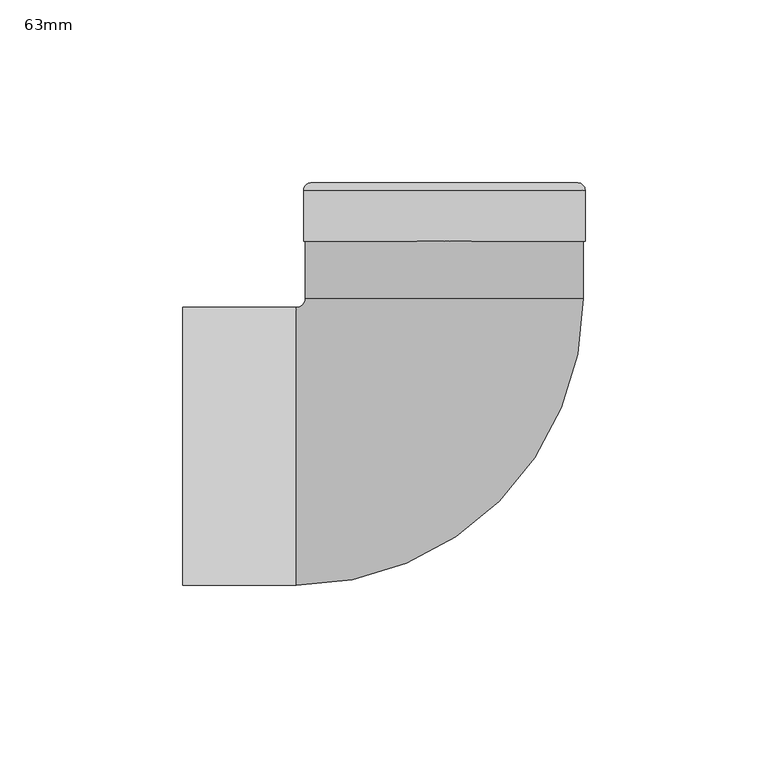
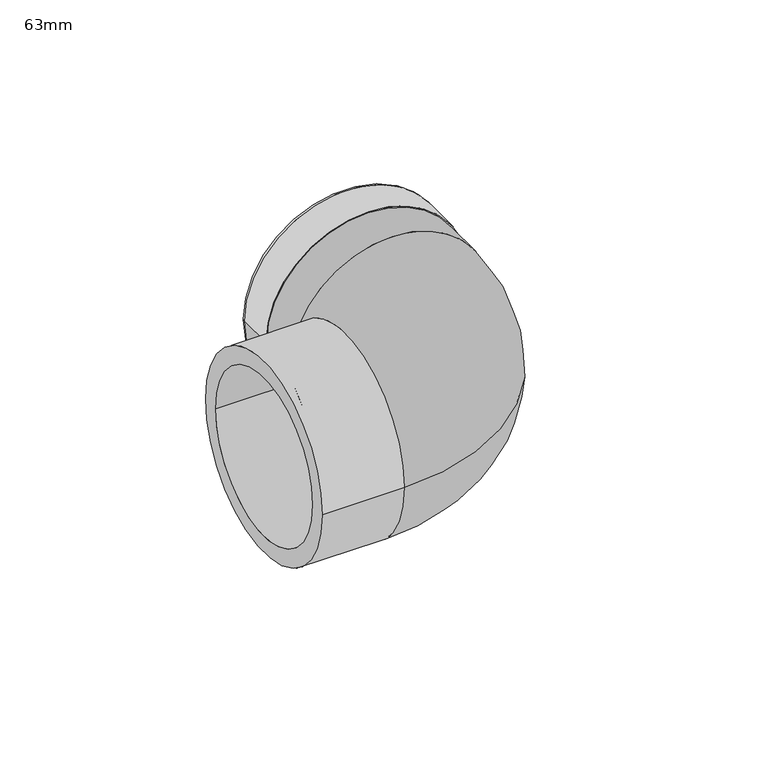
"""IFC4 building model written with IfcOpenShell, lengths in millimetres: pipe fitting geometry, Durapipe_PipeFitting_PVC_PlainThreadedElbows90Deg : 63mm."""

from ifc_helpers import new_model, si_unit, point, frame, origin, place, context, project, spatial, polyline, circle_curve, ellipse_curve, trimmed, source, transform, mapped, element, save
from ifc_brep_helpers import plane_surface, cylinder_surface, revolved_surface, advanced_brep


def pipe_fitting_63mm_69d4c0ef(model_context):
    return source(origin(), model_context, "Body", "AdvancedBrep", [
        advanced_brep(
        [(-38.0, 56.0, 0.0), (38.0, 56.0, 0.0), (31.5, 56.0, 0.0), (-31.5, 56.0, 0.0), (-71.5, 38.0, 0.0), (-71.5, -38.0, 0.0), (-71.5, 31.5, 0.0), (-71.5, -31.5, 0.0), (-38.0, 40.5, 0.0), (38.0, 40.5, 0.0), (-40.5, 38.0, 0.0), (-40.5, -38.0, 0.0), (-33.5, -31.5, 0.0), (-33.5, 31.5, 0.0), (-31.5, 33.3, 0.0), (31.5, 33.3, 0.0)],
        [
            (0, 1, circle_curve(frame((0.0, 56.0, 0.0), z_axis=(0.0, 1.0, 0.0), x_axis=(1.0, 0.0, 0.0)), 38.0)),
            (1, 0, circle_curve(frame((0.0, 56.0, 0.0), z_axis=(0.0, 1.0, 0.0), x_axis=(1.0, 0.0, 0.0)), 38.0)),
            (2, 3, circle_curve(frame((0.0, 56.0, 0.0), z_axis=(0.0, -1.0, 0.0), x_axis=(1.0, 0.0, 0.0)), 31.5)),
            (3, 2, circle_curve(frame((0.0, 56.0, 0.0), z_axis=(0.0, -1.0, 0.0), x_axis=(1.0, 0.0, 0.0)), 31.5)),
            (4, 5, circle_curve(frame((-71.5, 0.0, 0.0), z_axis=(-1.0, 0.0, 0.0), x_axis=(0.0, -1.0, 0.0)), 38.0)),
            (5, 4, circle_curve(frame((-71.5, 0.0, 0.0), z_axis=(-1.0, 0.0, 0.0), x_axis=(0.0, -1.0, 0.0)), 38.0)),
            (6, 7, circle_curve(frame((-71.5, 0.0, 0.0), z_axis=(1.0, 0.0, 0.0), x_axis=(0.0, 1.0, 0.0)), 31.5)),
            (7, 6, circle_curve(frame((-71.5, 0.0, 0.0), z_axis=(1.0, 0.0, 0.0), x_axis=(0.0, 1.0, 0.0)), 31.5)),
            (0, 8),
            (8, 9, circle_curve(frame((0.0, 40.5, 0.0), z_axis=(0.0, 1.0, 0.0), x_axis=(1.0, 0.0, 0.0)), 38.0)),
            (9, 1),
            (9, 8, circle_curve(frame((0.0, 40.5, 0.0), z_axis=(0.0, 1.0, 0.0), x_axis=(1.0, 0.0, 0.0)), 38.0)),
            (8, 10, circle_curve(frame((-40.5, 40.5, 0.0), z_axis=(0.0, 0.0, -1.0), x_axis=(1.0, 0.0, 0.0)), 2.5)),
            (10, 11, circle_curve(frame((-40.5, 0.0, 0.0), z_axis=(1.0, 0.0, 0.0), x_axis=(0.0, -1.0, 0.0)), 38.0)),
            (11, 9, circle_curve(frame((-40.5, 40.5, 0.0), z_axis=(0.0, 0.0, 1.0), x_axis=(1.0, 0.0, 0.0)), 78.5)),
            (11, 10, circle_curve(frame((-40.5, 0.0, 0.0), z_axis=(1.0, 0.0, 0.0), x_axis=(0.0, -1.0, 0.0)), 38.0)),
            (5, 11),
            (10, 4),
            (12, 13, circle_curve(frame((-33.5, 0.0, 0.0), z_axis=(-1.0, 0.0, 0.0), x_axis=(0.0, 1.0, 0.0)), 31.5)),
            (13, 12, circle_curve(frame((-33.5, 0.0, 0.0), z_axis=(-1.0, 0.0, 0.0), x_axis=(0.0, 1.0, 0.0)), 31.5)),
            (12, 7),
            (6, 13),
            (14, 15, circle_curve(frame((0.0, 33.3, 0.0), z_axis=(0.0, 1.0, 0.0), x_axis=(1.0, 0.0, 0.0)), 31.5)),
            (15, 14, circle_curve(frame((0.0, 33.3, 0.0), z_axis=(0.0, 1.0, 0.0), x_axis=(1.0, 0.0, 0.0)), 31.5)),
            (14, 3),
            (2, 15),
        ],
        [
            plane_surface(frame((0.0, 56.0, 0.0), z_axis=(0.0, 1.0, 0.0), x_axis=(0.0, 0.0, 1.0))),
            plane_surface(frame((-71.5, 0.0, 0.0), z_axis=(-1.0, 0.0, 0.0), x_axis=(0.0, 0.0, 1.0))),
            cylinder_surface(frame((0.0, 56.0, 0.0), z_axis=(0.0, 1.0, 0.0), x_axis=(1.0, 0.0, 0.0)), 38.0),
            revolved_surface(trimmed(ellipse_curve(frame((0.0, 40.5, 0.0), z_axis=(0.0, 1.0, 0.0), x_axis=(1.0, 0.0, 0.0)), 38.0, 38.0), [point((-38.0, 40.5, 0.0))], [point((38.0, 40.5, 0.0))], True, "CARTESIAN"), (-40.5, 40.5, 0.0), (0.0, 0.0, -1.0)),
            revolved_surface(trimmed(ellipse_curve(frame((0.0, 40.5, 0.0), z_axis=(0.0, 1.0, 0.0), x_axis=(1.0, 0.0, 0.0)), 38.0, 38.0), [point((38.0, 40.5, 0.0))], [point((-38.0, 40.5, 0.0))], True, "CARTESIAN"), (-40.5, 40.5, 0.0), (0.0, 0.0, -1.0)),
            cylinder_surface(frame((-40.5, 0.0, 0.0), z_axis=(1.0, 0.0, 0.0), x_axis=(0.0, -1.0, 0.0)), 38.0),
            plane_surface(frame((-33.5, 0.0, 0.0), z_axis=(-1.0, 0.0, 0.0), x_axis=(0.0, 0.0, 1.0))),
            revolved_surface(polyline([(-71.5, 31.5, 0.0), (-33.5, 31.5, 0.0)]), (-71.5, 0.0, 0.0), (-1.0, 0.0, 0.0)),
            plane_surface(frame((0.0, 33.3, 0.0), z_axis=(0.0, 1.0, 0.0), x_axis=(0.0, 0.0, 1.0))),
            revolved_surface(polyline([(31.5, 56.0, 0.0), (31.5, 33.3, 0.0)]), (0.0, 72.0, 0.0), (0.0, 1.0, 0.0)),
        ],
        [
            (0, [[1, 2], [3, 4]]),
            (1, [[5, 6], [7, 8]]),
            (2, [[-1, 9, 10, 11]]),
            (2, [[-2, -11, 12, -9]]),
            (3, [[-10, 13, 14, 15]]),
            (4, [[-12, -15, 16, -13]]),
            (5, [[-6, 17, -14, 18]]),
            (5, [[-5, -18, -16, -17]]),
            (6, [[19, 20]]),
            (7, [[-19, 21, -7, 22]]),
            (7, [[-20, -22, -8, -21]]),
            (8, [[23, 24]]),
            (9, [[-23, 25, -3, 26]]),
            (9, [[-24, -26, -4, -25]]),
        ],
    ),
        advanced_brep(
        [(36.4754699, 72.0, 0.0), (-36.4754699, 72.0, 0.0), (-31.5, 72.0, 0.0), (31.5, 72.0, 0.0), (38.5, 69.9754699, 0.0), (-38.5, 69.9754699, 0.0), (38.5, 56.0, 0.0), (-38.5, 56.0, 0.0), (31.5, 56.0, 0.0), (-31.5, 56.0, 0.0)],
        [
            (0, 1, circle_curve(frame((0.0, 72.0, 0.0), z_axis=(0.0, 1.0, 0.0), x_axis=(-1.0, 0.0, 0.0)), 36.4754699)),
            (1, 2),
            (2, 3, circle_curve(frame((0.0, 72.0, 0.0), z_axis=(0.0, -1.0, 0.0), x_axis=(-1.0, 0.0, 0.0)), 31.5)),
            (3, 0),
            (1, 0, circle_curve(frame((0.0, 72.0, 0.0), z_axis=(0.0, 1.0, 0.0), x_axis=(-1.0, 0.0, 0.0)), 36.4754699)),
            (3, 2, circle_curve(frame((0.0, 72.0, 0.0), z_axis=(0.0, -1.0, 0.0), x_axis=(-1.0, 0.0, 0.0)), 31.5)),
            (4, 5, circle_curve(frame((0.0, 69.9754699, 0.0), z_axis=(0.0, 1.0, 0.0), x_axis=(-1.0, 0.0, 0.0)), 38.5)),
            (5, 1, circle_curve(frame((-36.4754699, 69.9754699, 0.0), z_axis=(0.0, 0.0, -1.0), x_axis=(1.0, 0.0, 0.0)), 2.0245301)),
            (0, 4, circle_curve(frame((36.4754699, 69.9754699, 0.0), z_axis=(0.0, 0.0, -1.0), x_axis=(-1.0, 0.0, 0.0)), 2.0245301)),
            (5, 4, circle_curve(frame((0.0, 69.9754699, 0.0), z_axis=(0.0, 1.0, 0.0), x_axis=(-1.0, 0.0, 0.0)), 38.5)),
            (6, 7, circle_curve(frame((0.0, 56.0, 0.0), z_axis=(0.0, 1.0, 0.0), x_axis=(-1.0, 0.0, 0.0)), 38.5)),
            (7, 5),
            (4, 6),
            (7, 6, circle_curve(frame((0.0, 56.0, 0.0), z_axis=(0.0, 1.0, 0.0), x_axis=(-1.0, 0.0, 0.0)), 38.5)),
            (8, 9, circle_curve(frame((0.0, 56.0, 0.0), z_axis=(0.0, 1.0, 0.0), x_axis=(-1.0, 0.0, 0.0)), 31.5)),
            (9, 7),
            (6, 8),
            (9, 8, circle_curve(frame((0.0, 56.0, 0.0), z_axis=(0.0, 1.0, 0.0), x_axis=(-1.0, 0.0, 0.0)), 31.5)),
            (2, 9),
            (8, 3),
        ],
        [
            plane_surface(frame((0.0, 72.0, 0.0), z_axis=(0.0, 1.0, 0.0), x_axis=(-1.0, 0.0, 0.0))),
            revolved_surface(trimmed(ellipse_curve(frame((-36.4754699, 69.9754699, 0.0), z_axis=(0.0, 0.0, 1.0), x_axis=(1.0, 0.0, 0.0)), 2.0245301, 2.0245301), [point((-36.4754699, 72.0, 0.0))], [point((-38.5, 69.9754699, 0.0))], True, "CARTESIAN"), (0.0, 84.7371208, 0.0), (0.0, -1.0, 0.0)),
            cylinder_surface(frame((0.0, 84.7371208, 0.0), z_axis=(0.0, -1.0, 0.0), x_axis=(-1.0, 0.0, 0.0)), 38.5),
            plane_surface(frame((0.0, 56.0, 0.0), z_axis=(0.0, -1.0, 0.0), x_axis=(-1.0, 0.0, 0.0))),
            revolved_surface(polyline([(-31.5, 56.0, 0.0), (-31.5, 72.0, 0.0)]), (0.0, 84.7371208, 0.0), (0.0, -1.0, 0.0)),
        ],
        [
            (0, [[1, 2, 3, 4]]),
            (0, [[5, -4, 6, -2]]),
            (1, [[7, 8, -1, 9]]),
            (1, [[10, -9, -5, -8]]),
            (2, [[11, 12, -7, 13]]),
            (2, [[14, -13, -10, -12]]),
            (3, [[15, 16, -11, 17]]),
            (3, [[18, -17, -14, -16]]),
            (4, [[-3, 19, -15, 20]]),
            (4, [[-6, -20, -18, -19]]),
        ],
    ),
    ])


if __name__ == "__main__":
    model = new_model("IFC4")
    model_context = context("Model", 3, world=origin())
    ifc_project = project(units=[si_unit("LENGTHUNIT", "METRE", prefix="MILLI")], contexts=[model_context])
    site = spatial("IfcSite", under=ifc_project)
    building = spatial("IfcBuilding", under=site)
    placement = place(None, origin())
    pipe_fitting_63mm_shape = pipe_fitting_63mm_69d4c0ef(model_context)
    element("IfcPipeFitting", 1, ObjectType="Durapipe_PipeFitting_PVC_PlainThreadedElbows90Deg : 63mm", at=placement, inside=building, context=model_context, shape_type="MappedRepresentation", body=[
        mapped(pipe_fitting_63mm_shape, transform((0.0, 0.0, 0.0), x_axis=(1.0, 0.0, 0.0), y_axis=(0.0, 1.0, 0.0), z_axis=(0.0, 0.0, 1.0))),
    ])
    save(model, "model.ifc")
